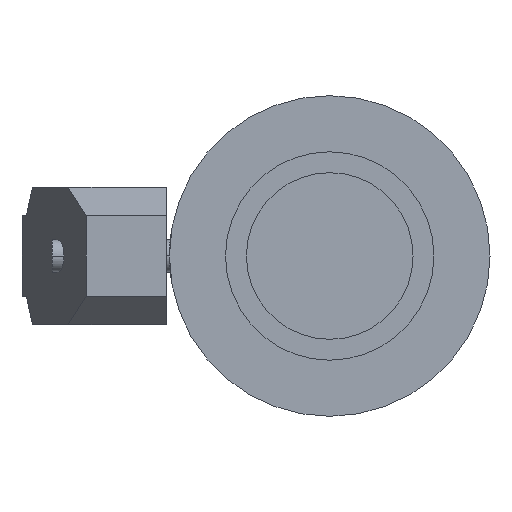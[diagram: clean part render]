
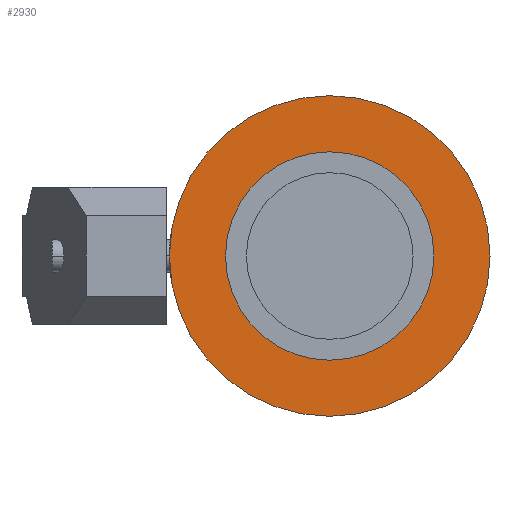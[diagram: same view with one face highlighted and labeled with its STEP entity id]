
A CAD part, left-side view. The second image highlights one B-rep face of the part: STEP entity #2930.
In plain terms, the highlighted planar face has unit normal (-1, 0, 0) as drawn and (1, 0, 0) by its records, which use the part's own axes.
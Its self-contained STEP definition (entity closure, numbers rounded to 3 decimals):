
#2070=CARTESIAN_POINT('',(-63.686,-40.688,
0.));
#2080=VERTEX_POINT('',#2070);
#2540=CARTESIAN_POINT('',(-63.686,59.312,0.));
#2550=VERTEX_POINT('',#2540);
#2580=CARTESIAN_POINT('',(-63.686,9.312,0.));
#2590=DIRECTION('',(1.,0.,0.));
#2600=DIRECTION('',(0.,1.,0.));
#2610=AXIS2_PLACEMENT_3D('',#2580,#2590,#2600);
#2620=CIRCLE('',#2610,50.);
#2630=EDGE_CURVE('',#2550,#2080,#2620,.T.);
#2680=CARTESIAN_POINT('',(-63.686,-38.338,0.));
#2690=DIRECTION('',(-1.,0.,0.));
#2700=DIRECTION('',(0.,1.,0.));
#2710=AXIS2_PLACEMENT_3D('',#2680,#2690,#2700);
#2720=PLANE('',#2710);
#2730=EDGE_CURVE('',#2080,#2550,#2620,.T.);
#2740=ORIENTED_EDGE('',*,*,#2730,.T.);
#2750=ORIENTED_EDGE('',*,*,#2630,.T.);
#2760=EDGE_LOOP('',(#2750,#2740));
#2770=FACE_OUTER_BOUND('',#2760,.T.);
#2780=CARTESIAN_POINT('',(-63.686,9.312,0.));
#2790=DIRECTION('',(1.,0.,0.));
#2800=DIRECTION('',(0.,1.,0.));
#2810=AXIS2_PLACEMENT_3D('',#2780,#2790,#2800);
#2820=CIRCLE('',#2810,30.);
#2830=CARTESIAN_POINT('',(-63.686,-20.688,
0.));
#2840=VERTEX_POINT('',#2830);
#2850=CARTESIAN_POINT('',(-63.686,39.312,0.));
#2860=VERTEX_POINT('',#2850);
#2870=EDGE_CURVE('',#2840,#2860,#2820,.T.);
#2880=ORIENTED_EDGE('',*,*,#2870,.F.);
#2890=EDGE_CURVE('',#2860,#2840,#2820,.T.);
#2900=ORIENTED_EDGE('',*,*,#2890,.F.);
#2910=EDGE_LOOP('',(#2900,#2880));
#2920=FACE_BOUND('',#2910,.T.);
#2930=ADVANCED_FACE('',(#2770,#2920),#2720,.F.);
